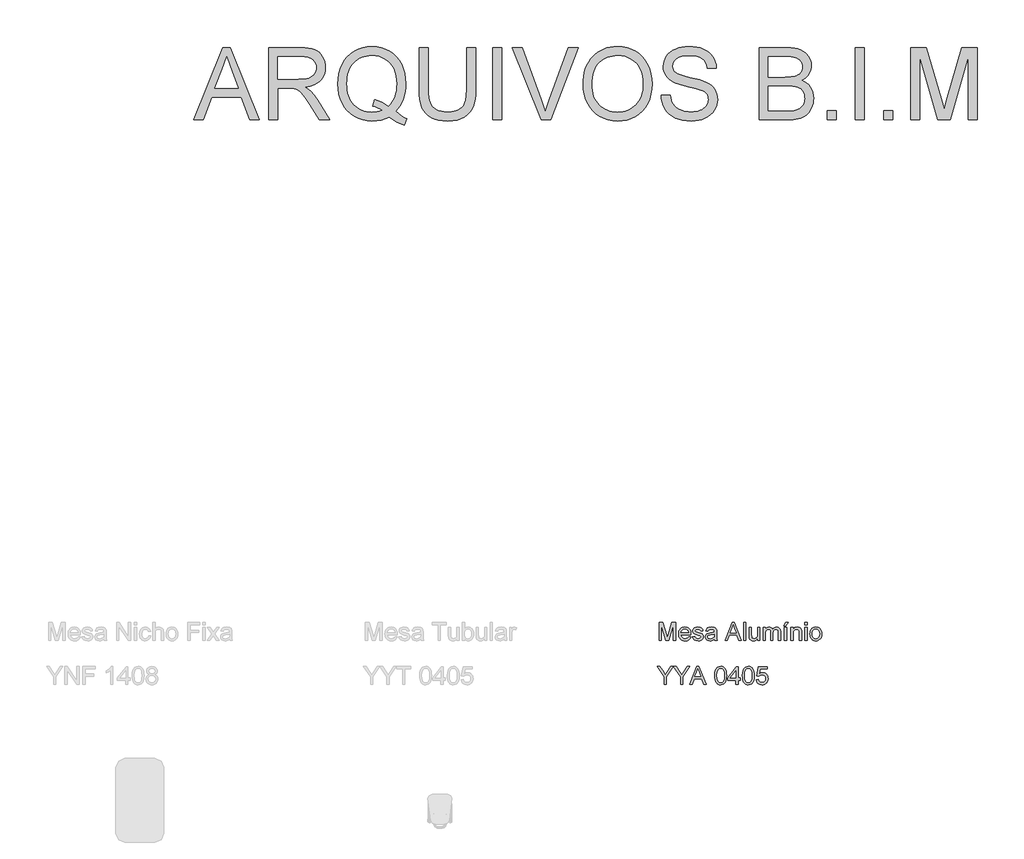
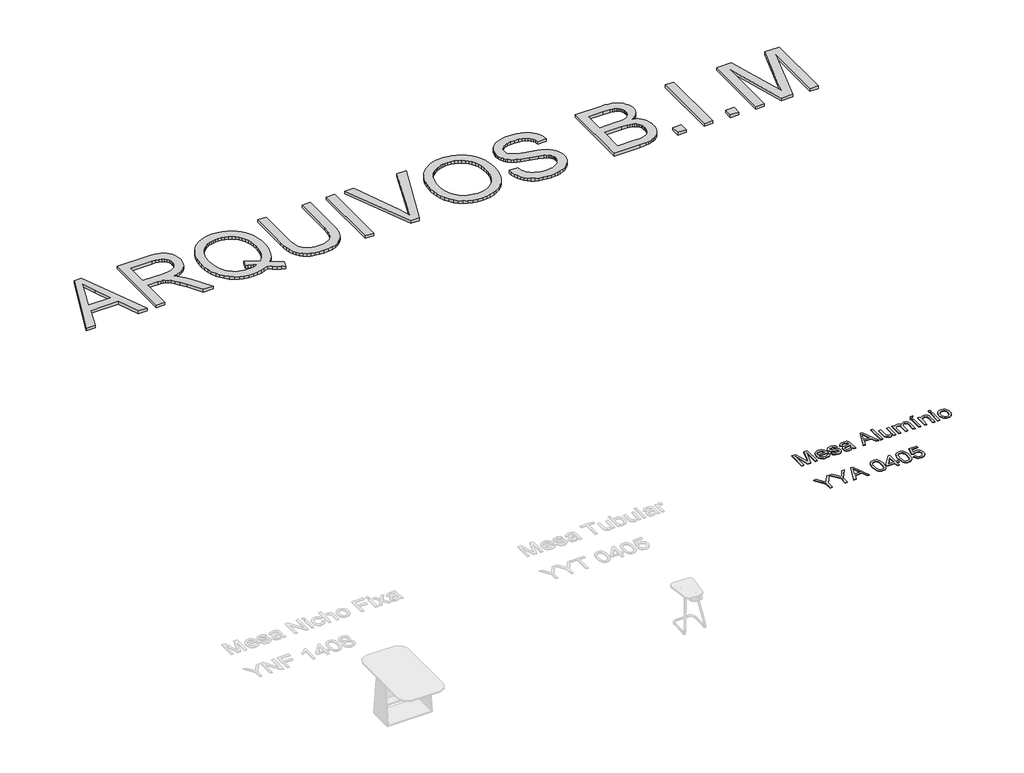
# One storey, part 25 of 26: 2 proxies.
"""IFC4 building model written with IfcOpenShell, lengths in millimetres."""

from ifc_helpers import new_model, si_unit, origin, origin_with_axes, place, context, project, spatial, polyline, outline, extrude, element, save

model = new_model("IFC4")

# Units and contexts
model_context = context("Model", 3, world=origin())
ifc_project = project(units=[si_unit("LENGTHUNIT", "METRE", prefix="MILLI")], contexts=[model_context])

# Site, building, storey
site = spatial("IfcSite", under=ifc_project)
building = spatial("IfcBuilding", under=site)
storey = spatial("IfcBuildingStorey", under=building, Name="Marelli - Linha YOUNG - Planta Baixa", Elevation=0.0)

# Proxies
placement = place(None, origin())
element("IfcBuildingElementProxy", 1, Name="1200mm Arial", ObjectType="1200mm Arial", at=placement, inside=storey, context=model_context, shape_type="SweptSolid", body=[
    extrude(outline(polyline([(1800.9329987, 21269.4336799), (2282.1226484, 22474.9094017), (2410.4398883, 22474.9094017), (2891.629538, 21269.4336799), (2732.4102105, 21269.4336799), (2594.3808859, 21646.144843), (2097.8873452, 21646.144843), (1960.1523263, 21269.4336799), (1800.9329987, 21269.4336799)]), holes=[polyline([(2153.2167973, 21796.8293082), (2539.3457395, 21796.8293082), (2430.7469745, 22093.1950435), (2346.2812684, 22324.2249365), (2271.2333414, 22119.093936), (2153.2167973, 21796.8293082)])]), origin_with_axes(), (0.0, 0.0, 1.0), 50.0),
    extrude(outline(polyline([(3052.6146991, 21269.4336799), (3052.6146991, 22474.9094017), (3572.0640763, 22474.9094017), (3646.6245597, 22472.8768537), (3711.6752935, 22466.7792096), (3767.2162777, 22456.6164695), (3813.2475124, 22442.3886334), (3852.4453389, 22423.0012522), (3887.486099, 22397.3598771), (3918.3697925, 22365.4645082), (3945.0964194, 22327.3151453), (3966.6635014, 22284.9627306), (3982.0685599, 22240.4582062), (3991.3115951, 22193.8015722), (3994.3926068, 22144.9928285), (3989.2882441, 22083.0782887), (3973.975156, 22026.2405204), (3948.4533426, 21974.4795237), (3912.7228039, 21927.7952985), (3890.9142993, 21906.7294558), (3866.3236872, 21887.6777669), (3808.7961402, 21855.616851), (3740.1401629, 21831.6125509), (3660.3557552, 21815.6648664), (3710.0198245, 21783.2176744), (3745.9986836, 21751.2119408), (3807.7292824, 21678.0034238), (3868.135506, 21596.1128916), (4069.1462282, 21269.4336799), (3894.0343985, 21269.4336799), (3737.1695158, 21519.2991311), (3674.4088474, 21614.6541442), (3623.8618612, 21684.6988761), (3581.7393728, 21732.9282057), (3544.2521975, 21762.8370119), (3508.7515849, 21780.384983), (3472.5887848, 21791.5318075), (3437.3456897, 21795.504933), (3385.1800228, 21796.8293082), (3203.2991644, 21796.8293082), (3203.2991644, 21269.4336799), (3052.6146991, 21269.4336799)]), holes=[polyline([(3203.2991644, 21947.5137734), (3540.5733775, 21947.5137734), (3637.4367069, 21952.8480624), (3677.7289824, 21959.5159235), (3712.5949985, 21968.8509292), (3742.8165044, 21981.1197937), (3769.1752493, 21996.5892316), (3791.6712333, 22015.2592429), (3810.3044564, 22037.1298275), (3824.9185687, 22061.1249306), (3835.3572203, 22086.1684974), (3841.6204112, 22112.2605279), (3843.7081416, 22139.4010221), (3839.725819, 22177.9366611), (3827.7788512, 22212.9038448), (3807.8672382, 22244.3025731), (3779.99098, 22272.132846), (3743.5062831, 22294.9231356), (3697.7693541, 22311.2019139), (3642.7801928, 22320.9691808), (3578.5387994, 22324.2249365), (3203.2991644, 22324.2249365), (3203.2991644, 21947.5137734)])]), origin_with_axes(), (0.0, 0.0, 1.0), 50.0),
    extrude(outline(polyline([(5163.6687403, 21413.9377276), (5213.3144155, 21373.8569843), (5261.0103162, 21339.5519882), (5306.7564423, 21311.0227395), (5350.5527938, 21288.2692381), (5309.9386215, 21177.9046395), (5247.7481702, 21203.4908323), (5185.6680836, 21235.51496), (5123.6983615, 21273.9770226), (5061.839004, 21318.8770201), (4993.8728054, 21289.0050021), (4922.4117278, 21267.6678464), (4847.4557713, 21254.8655529), (4769.0049358, 21250.5981218), (4690.0758538, 21255.5185435), (4614.8623798, 21270.2798085), (4543.3645141, 21294.8819169), (4475.5822565, 21329.3248687), (4413.4561845, 21372.6797619), (4358.9268758, 21424.0176943), (4311.9943303, 21483.338666), (4272.6585479, 21550.642677), (4241.5633223, 21624.1914849), (4219.3524468, 21702.2468473), (4206.0259216, 21784.808764), (4201.5837465, 21871.8772352), (4206.0167245, 21958.7617654), (4219.3156586, 22041.654776), (4241.4805488, 22120.5562669), (4272.5113951, 22195.4662382), (4311.7276158, 22264.030245), (4358.4486292, 22323.8938427), (4412.6744353, 22375.0570312), (4474.4050341, 22417.5198105), (4541.8378038, 22450.8683133), (4613.1701227, 22474.6886725), (4688.4019907, 22488.980888), (4767.5334078, 22493.7449599), (4847.3362096, 22488.8705234), (4923.1107036, 22474.2472141), (4994.8568897, 22449.875032), (5062.574768, 22415.7539769), (5124.3697461, 22372.8589363), (5178.3472319, 22322.1647973), (5224.5072252, 22263.6715601), (5262.8497262, 22197.3792246), (5292.9792616, 22124.9432597), (5314.5003583, 22048.0191345), (5327.4130163, 21966.606849), (5331.7172356, 21880.7064031), (5329.1052735, 21809.2821138), (5321.269387, 21741.5734325), (5308.2095762, 21677.5803595), (5289.925841, 21617.3028946), (5266.3629992, 21560.777826), (5237.4658685, 21508.041942), (5203.2344488, 21459.0952425), (5163.6687403, 21413.9377276)]), holes=[polyline([(4810.5020249, 21614.3598386), (4876.904725, 21592.7467714), (4937.200584, 21566.4616028), (4991.3896019, 21535.5043329), (5039.4717787, 21499.8749617), (5072.6501361, 21532.8739767), (5101.4047126, 21569.7725408), (5125.735508, 21610.5706541), (5145.6425225, 21655.2683165), (5161.125756, 21703.865528), (5172.1852084, 21756.3622887), (5178.8208799, 21812.7585986), (5181.0327704, 21873.0544576), (5177.9057735, 21941.6000704), (5168.5247826, 22005.6759169), (5152.8897978, 22065.2819971), (5131.0008191, 22120.4183112), (5103.0877727, 22170.358292), (5069.3805849, 22214.3753727), (5029.8792557, 22252.4695533), (4984.583785, 22284.6408338), (4934.9289127, 22310.1994354), (4882.3493785, 22328.4555794), (4826.8451825, 22339.4092659), (4768.4163246, 22343.0604947), (4724.4912144, 22341.2141869), (4682.4790906, 22335.6752636), (4642.3799531, 22326.4437248), (4604.193802, 22313.5195704), (4567.9206373, 22296.9028006), (4533.5604589, 22276.5934152), (4501.1132669, 22252.5914143), (4470.5790613, 22224.8967978), (4442.849956, 22193.537157), (4418.8180646, 22158.5400829), (4398.4833873, 22119.9055756), (4381.8459241, 22077.6336351), (4368.9056749, 22031.7242614), (4359.6626398, 21982.1774544), (4354.1168187, 21928.9932142), (4352.2682117, 21872.1715408), (4354.0961254, 21816.9501541), (4359.5798663, 21765.0351068), (4368.7194347, 21716.4263989), (4381.5148303, 21671.1240305), (4397.9660533, 21629.1280015), (4418.0731036, 21590.4383119), (4441.8359812, 21555.0549617), (4469.2546862, 21522.977951), (4499.5152795, 21494.4556001), (4531.8038224, 21469.7362293), (4566.1203147, 21448.8198386), (4602.4647566, 21431.706428), (4640.837148, 21418.3959976), (4681.2374888, 21408.8885473), (4723.6657792, 21403.1840771), (4768.122019, 21401.282587), (4810.5939954, 21403.2139675), (4851.7783847, 21409.0081089), (4891.6751871, 21418.6650113), (4930.2844025, 21432.1846746), (4892.2270101, 21453.9081064), (4853.1027599, 21472.2838121), (4812.911652, 21487.3117916), (4771.6536862, 21498.9920449), (4810.5020249, 21614.3598386)])]), origin_with_axes(), (0.0, 0.0, 1.0), 50.0),
    extrude(outline(polyline([(6348.8373759, 22474.9094017), (6499.5218411, 22474.9094017), (6499.5218411, 21779.465278), (6496.9650613, 21693.3533), (6489.2947217, 21616.6039188), (6476.5108223, 21549.2171343), (6458.6133633, 21491.1929466), (6434.0572401, 21440.3332608), (6401.2973484, 21394.4399819), (6360.3336883, 21353.5131099), (6311.1662596, 21317.5526449), (6253.7398802, 21288.260041), (6187.9993676, 21267.3367526), (6113.944722, 21254.7827795), (6031.5759433, 21250.5981218), (5951.2397126, 21254.2401535), (5878.5738215, 21265.1662488), (5813.57827, 21283.3764075), (5756.2530581, 21308.8706298), (5706.5889887, 21341.2718365), (5664.5768649, 21380.2029487), (5630.2166865, 21425.6639662), (5603.5084537, 21477.6548892), (5583.4864761, 21537.9599453), (5569.1850635, 21608.3633621), (5560.604216, 21688.8651397), (5557.7439335, 21779.465278), (5557.7439335, 22474.9094017), (5708.4283987, 22474.9094017), (5708.4283987, 21784.7627788), (5710.2862028, 21711.9129467), (5715.859615, 21649.3454164), (5725.1486354, 21597.0601878), (5738.1532639, 21555.057261), (5755.682841, 21520.3016095), (5778.546707, 21489.7582068), (5806.7448619, 21463.427053), (5840.2773058, 21441.3081481), (5878.5002451, 21423.7969651), (5920.7698863, 21411.2889773), (5967.0862295, 21403.7841846), (6017.4492747, 21401.282587), (6100.4986351, 21406.2305998), (6170.7089138, 21421.0746383), (6200.9993976, 21432.2076672), (6228.080111, 21445.8147025), (6251.951054, 21461.8957442), (6272.6122265, 21480.4507924), (6290.4774959, 21502.5237121), (6305.9607294, 21529.1583685), (6319.0619269, 21560.3547617), (6329.7810886, 21596.1128916), (6344.0733041, 21681.3143617), (6348.8373759, 21784.7627788), (6348.8373759, 22474.9094017)])), origin_with_axes(), (0.0, 0.0, 1.0), 50.0),
    extrude(outline(polyline([(6782.0552134, 21269.4336799), (6782.0552134, 22474.9094017), (6932.7396787, 22474.9094017), (6932.7396787, 21269.4336799), (6782.0552134, 21269.4336799)])), origin_with_axes(), (0.0, 0.0, 1.0), 50.0),
    extrude(outline(polyline([(7590.2183804, 21269.4336799), (7110.5002587, 22474.9094017), (7271.7797254, 22474.9094017), (7592.8671308, 21606.4135875), (7628.5516843, 21505.2460388), (7657.9086676, 21410.7003661), (7687.7806856, 21508.6305532), (7722.0672875, 21606.4135875), (8044.0376097, 22474.9094017), (8205.3170764, 22474.9094017), (7745.9060408, 21269.4336799), (7590.2183804, 21269.4336799)])), origin_with_axes(), (0.0, 0.0, 1.0), 50.0),
    extrude(outline(polyline([(8288.8998657, 21856.2790386), (8291.4106603, 21929.0047106), (8298.9430441, 21997.6744835), (8311.4970172, 22062.2883574), (8329.0725796, 22122.8463323), (8351.6697311, 22179.3484083), (8379.2884719, 22231.7945852), (8411.9288019, 22280.1848632), (8449.5907212, 22324.5192421), (8491.2211675, 22364.1815197), (8535.7670785, 22398.5554936), (8583.2284544, 22427.6411639), (8633.6052952, 22451.4385304), (8686.8976007, 22469.9475933), (8743.105371, 22483.1683525), (8802.2286062, 22491.100808), (8864.2673061, 22493.7449599), (8945.366892, 22488.7785529), (9022.3829877, 22473.8793321), (9095.3155932, 22449.0472975), (9164.1647086, 22414.2824489), (9226.9989534, 22370.6332502), (9281.8869471, 22319.148165), (9328.8286896, 22259.8271932), (9367.8241811, 22192.670335), (9398.4687513, 22119.2043006), (9420.35773, 22040.9558002), (9433.4911173, 21957.9248339), (9437.868913, 21870.1114017), (9433.261191, 21781.1391411), (9419.4380251, 21696.9861347), (9396.3994151, 21617.6523825), (9364.1453612, 21543.1378843), (9323.4392184, 21475.410809), (9275.0443419, 21416.4393252), (9218.9607318, 21366.2234329), (9155.1883879, 21324.763132), (9086.238105, 21292.31594), (9014.6206776, 21269.1393743), (8940.3361057, 21255.2334349), (8863.3843893, 21250.5981218), (8780.8684578, 21255.7208786), (8702.8406867, 21271.0891489), (8629.3010758, 21296.7029328), (8560.2496253, 21332.5622303), (8497.4889569, 21377.2782868), (8442.8216925, 21429.4623478), (8396.2478319, 21489.1144134), (8357.7673752, 21556.2344834), (8327.6378398, 21628.1278223), (8306.1167431, 21702.0996945), (8293.204085, 21778.1500999), (8288.8998657, 21856.2790386)]), holes=[polyline([(8439.5843309, 21854.8075107), (8441.4674269, 21803.4557827), (8447.1167148, 21754.9091549), (8456.5321946, 21709.1676273), (8469.7138663, 21666.2311999), (8486.66173, 21626.0998728), (8507.3757856, 21588.7736458), (8531.8560331, 21554.2525191), (8560.1024725, 21522.5364926), (8591.1908004, 21494.1176085), (8624.1967131, 21469.4879089), (8659.1202108, 21448.6473939), (8695.9612933, 21431.5960634), (8734.7199608, 21418.3339175), (8775.3962131, 21408.8609561), (8817.9900504, 21403.1771793), (8862.5014726, 21401.282587), (8907.8268336, 21403.1955734), (8951.096654, 21408.9345325), (8992.3109338, 21418.4994644), (9031.4696729, 21431.890369), (9068.5728714, 21449.1072464), (9103.6205292, 21470.1500965), (9136.6126464, 21495.0189194), (9167.549223, 21523.713715), (9195.5887288, 21555.9263822), (9219.8896338, 21591.3488198), (9240.4519381, 21629.9810278), (9257.2756416, 21671.8230063), (9270.3607443, 21716.8747551), (9279.7072462, 21765.1362743), (9285.3151474, 21816.607564), (9287.1844478, 21871.288624), (9283.9838744, 21940.248104), (9274.3821544, 22004.6826355), (9258.3792876, 22064.5922184), (9235.9752741, 22119.9768528), (9207.4184342, 22170.1099717), (9172.9570883, 22214.2650081), (9132.5912364, 22252.4419622), (9086.3208784, 22284.6408338), (9035.5807542, 22310.1994354), (8981.8056036, 22328.4555794), (8924.9954265, 22339.4092659), (8865.1502229, 22343.0604947), (8822.3517513, 22341.3015589), (8781.0707929, 22336.0247515), (8741.3073478, 22327.2300726), (8703.0614158, 22314.917522), (8666.3329972, 22299.0870999), (8631.1220917, 22279.7388062), (8597.4286995, 22256.872641), (8565.2528205, 22230.4886041), (8535.7992682, 22199.993486), (8510.2728563, 22164.7940768), (8488.6735846, 22124.8903767), (8471.0014533, 22080.2823855), (8457.2564622, 22030.9701033), (8447.4386115, 21976.9535301), (8441.5479011, 21918.2326659), (8439.5843309, 21854.8075107)])]), origin_with_axes(), (0.0, 0.0, 1.0), 50.0),
    extrude(outline(polyline([(9588.5533782, 21683.8159593), (9739.2378435, 21683.8159593), (9746.1356309, 21639.9552284), (9756.5282972, 21600.1963818), (9770.4158426, 21564.5394194), (9787.7982668, 21532.9843413), (9809.5584868, 21504.8965509), (9836.5794194, 21479.641452), (9868.8610645, 21457.2190444), (9906.4034221, 21437.6293281), (9947.8269347, 21421.7276289), (9991.752045, 21410.3692723), (10038.1787527, 21403.5542583), (10087.1070581, 21401.282587), (10130.3883748, 21403.0024353), (10171.0577294, 21408.1619803), (10209.1151218, 21416.761222), (10244.560552, 21428.8001602), (10276.5203004, 21443.8465338), (10304.1206471, 21461.4680814), (10327.3615921, 21481.6648029), (10346.2431355, 21504.4366985), (10360.8572478, 21528.7996836), (10371.2958994, 21553.769674), (10377.5590903, 21579.3466697), (10379.6468207, 21605.5306707), (10378.0833222, 21631.6043071), (10373.3928267, 21655.9672923), (10365.5753344, 21678.6196261), (10354.630845, 21699.5613087), (10338.8487074, 21718.9027046), (10316.5182703, 21736.7541784), (10287.6395337, 21753.1157301), (10252.2124975, 21767.9873598), (10172.639622, 21791.6421721), (10032.8076756, 21825.5241038), (9888.7818745, 21863.5998903), (9836.2207344, 21881.9480049), (9796.6274347, 21899.8362669), (9756.3903415, 21923.8405671), (9721.6162959, 21950.5304058), (9692.3052979, 21979.9057831), (9668.4573476, 22011.966699), (9649.9804744, 22046.3820596), (9636.7827078, 22082.8207713), (9628.8640479, 22121.2828339), (9626.2244945, 22161.7682474), (9629.4894473, 22206.6406538), (9639.2843054, 22250.0231381), (9655.6090689, 22291.9157003), (9678.4637379, 22332.3183404), (9707.5907948, 22369.5847865), (9742.7327224, 22402.0687667), (9783.8895206, 22429.7702809), (9831.0611895, 22452.6893292), (9882.6566393, 22470.6511676), (9937.0847805, 22483.4810522), (9994.345613, 22491.178983), (10054.4391369, 22493.7449599), (10119.9957085, 22491.0594213), (10181.5791545, 22483.0028056), (10239.1894749, 22469.5751128), (10292.8266698, 22450.7763428), (10341.4974578, 22426.7720427), (10384.2085574, 22397.7277591), (10420.9599687, 22363.6434923), (10451.7516917, 22324.5192421), (10476.3446031, 22281.4954428), (10494.4995796, 22235.7125285), (10506.2166211, 22187.1704992), (10511.4957277, 22135.869355), (10360.8112625, 22135.869355), (10350.7312958, 22183.9515317), (10333.1465365, 22225.7797146), (10308.0569844, 22261.3539035), (10275.4626396, 22290.6740985), (10234.7564969, 22313.5931468), (10185.3315508, 22329.9638956), (10127.1878015, 22339.7863449), (10060.3252489, 22343.0604947), (9991.3289807, 22339.8231331), (9932.3758909, 22330.1110484), (9883.4659797, 22313.9242406), (9844.5992469, 22291.2627097), (9814.9847463, 22264.021048), (9793.8315315, 22234.0938477), (9781.1396027, 22201.4811088), (9776.9089598, 22166.1828314), (9779.907198, 22135.8141727), (9788.9019128, 22108.2782053), (9803.8931041, 22083.5749294), (9824.8807719, 22061.7043447), (9857.9165751, 22040.9925884), (9909.9350892, 22020.0601029), (9980.9363143, 21998.9068882), (10070.9202503, 21977.5329442), (10237.0557593, 21937.1395012), (10295.5122084, 21918.8741601), (10337.5611204, 21901.896406), (10383.757902, 21876.1630605), (10423.4615663, 21847.2291416), (10456.6721134, 21815.0946493), (10483.3895433, 21779.7595836), (10503.9265557, 21741.4078856), (10518.5958502, 21700.2234963), (10527.397427, 21656.2064156), (10530.3312859, 21609.3566435), (10526.9559686, 21562.2217628), (10516.8300167, 21516.4664397), (10499.9534301, 21472.090674), (10476.326209, 21429.0944658), (10446.3622205, 21389.1424812), (10410.4753319, 21353.899386), (10368.6655431, 21323.3651804), (10320.9328542, 21297.5398644), (10268.6660198, 21277.002852), (10213.2537942, 21262.3335574), (10154.6961777, 21253.5319807), (10092.99317, 21250.5981218), (10015.912695, 21253.7619069), (9945.3621254, 21263.2532624), (9881.3414611, 21279.0721882), (9823.8507024, 21301.2186843), (9772.5403611, 21329.7295389), (9727.0609494, 21364.6415403), (9687.4124674, 21405.9546883), (9653.594915, 21453.6689831), (9626.3532532, 21506.2393202), (9606.4324432, 21562.1205953), (9593.8324849, 21621.3128083), (9588.5533782, 21683.8159593)])), origin_with_axes(), (0.0, 0.0, 1.0), 50.0),
    extrude(outline(polyline([(11227.2469376, 21269.4336799), (11227.2469376, 22474.9094017), (11687.2465843, 22474.9094017), (11753.9711812, 22472.6929127), (11813.7612025, 22466.0434456), (11866.6166481, 22454.9610005), (11912.5375182, 22439.4455774), (11952.6918379, 22419.3316293), (11988.2476328, 22394.4536094), (12019.2049027, 22364.8115176), (12045.5636476, 22330.405354), (12066.6156948, 22293.1756961), (12081.6528714, 22255.0631214), (12090.6751773, 22216.0676299), (12093.6826126, 22176.1892216), (12091.1534239, 22139.3550369), (12083.5658577, 22103.606104), (12070.9199141, 22068.942423), (12053.2155931, 22035.3639939), (12030.3977124, 22003.9192804), (12002.4110896, 21975.6567461), (11969.2557248, 21950.5763911), (11930.9316179, 21928.6782153), (11976.4110296, 21909.2908341), (12016.317029, 21884.0909175), (12050.6496162, 21853.0784653), (12079.4087912, 21816.2534776), (12102.1347014, 21774.7379944), (12118.3674945, 21729.6540559), (12128.1071703, 21681.001662), (12131.3537289, 21628.7808128), (12129.1372399, 21585.9869397), (12122.4877728, 21544.7197769), (12111.4053277, 21504.9793244), (12095.8899046, 21466.7655821), (12077.1003317, 21431.4673047), (12056.1954373, 21400.4732466), (12033.1752214, 21373.7834079), (12008.0396841, 21351.3977885), (11980.2002141, 21332.3966834), (11949.0682003, 21315.8603877), (11914.6436426, 21301.7889014), (11876.926541, 21290.1822245), (11835.3282844, 21281.1047362), (11789.2602616, 21274.6208161), (11683.7149172, 21269.4336799), (11227.2469376, 21269.4336799)]), holes=[polyline([(11377.9314028, 21985.1848897), (11653.1071352, 21985.1848897), (11749.3450651, 21988.4222513), (11813.7979907, 21998.134336), (11843.8999349, 22007.9108), (11870.0471477, 22020.4647731), (11892.2396291, 22035.7962552), (11910.477379, 22053.9052464), (11924.7052152, 22074.662988), (11934.8679553, 22097.9407213), (11940.9655993, 22123.7384462), (11942.9981474, 22152.0561628), (11941.1035551, 22179.1690658), (11935.4197783, 22204.5897117), (11925.9468169, 22228.3181004), (11912.684671, 22250.3542319), (11895.8908579, 22269.8795688), (11875.8228951, 22286.0755736), (11852.4807825, 22298.9422464), (11825.8645201, 22308.4795871), (11792.5711995, 22315.3681775), (11749.1979123, 22320.2885992), (11632.2114378, 22324.2249365), (11377.9314028, 22324.2249365), (11377.9314028, 21985.1848897)]), polyline([(11377.9314028, 21420.1181452), (11686.9522787, 21420.1181452), (11754.6425658, 21421.5896731), (11798.7884053, 21426.0042571), (11850.6965548, 21439.0640679), (11893.4076544, 21458.819331), (11928.1357148, 21487.1094565), (11956.0947464, 21525.7738542), (11966.8460977, 21548.5641438), (11974.5256344, 21573.0834788), (11979.1333563, 21599.3318591), (11980.6692637, 21627.3092848), (11978.8666419, 21659.9036296), (11973.4587766, 21690.2906824), (11964.4456677, 21718.4704432), (11951.8273153, 21744.4429121), (11935.1714579, 21767.463128), (11914.0458343, 21786.7861297), (11888.4504445, 21802.4119175), (11858.3852885, 21814.3404912), (11822.525991, 21823.160462), (11779.5481769, 21829.4604412), (11672.2369989, 21834.5004245), (11377.9314028, 21834.5004245), (11377.9314028, 21420.1181452)])]), origin_with_axes(), (0.0, 0.0, 1.0), 50.0),
    extrude(outline(polyline([(12357.3804267, 21269.4336799), (12357.3804267, 21420.1181452), (12508.064892, 21420.1181452), (12508.064892, 21269.4336799), (12357.3804267, 21269.4336799)])), origin_with_axes(), (0.0, 0.0, 1.0), 50.0),
    extrude(outline(polyline([(12828.2693806, 21269.4336799), (12828.2693806, 22474.9094017), (12978.9538458, 22474.9094017), (12978.9538458, 21269.4336799), (12828.2693806, 21269.4336799)])), origin_with_axes(), (0.0, 0.0, 1.0), 50.0),
    extrude(outline(polyline([(13299.1583344, 21269.4336799), (13299.1583344, 21420.1181452), (13449.8427996, 21420.1181452), (13449.8427996, 21269.4336799), (13299.1583344, 21269.4336799)])), origin_with_axes(), (0.0, 0.0, 1.0), 50.0),
    extrude(outline(polyline([(13751.2117301, 21269.4336799), (13751.2117301, 22474.9094017), (14010.4949603, 22474.9094017), (14257.1230498, 21625.2491457), (14306.8606956, 21447.7828712), (14360.7186197, 21639.9644255), (14603.2264309, 22474.9094017), (14862.5096611, 22474.9094017), (14862.5096611, 21269.4336799), (14711.8251959, 21269.4336799), (14711.8251959, 22324.2249365), (14408.9847374, 21269.4336799), (14204.7366537, 21269.4336799), (13901.8961953, 22324.2249365), (13901.8961953, 21269.4336799), (13751.2117301, 21269.4336799)])), origin_with_axes(), (0.0, 0.0, 1.0), 50.0),
])
element("IfcBuildingElementProxy", 2, Name="300mm Arial", ObjectType="300mm Arial", at=placement, inside=storey, context=model_context, shape_type="SweptSolid", body=[
    extrude(outline(polyline([(9555.1708067, 12585.3581335), (9555.1708067, 12886.7270639), (9619.9916142, 12886.7270639), (9681.6486366, 12674.3119999), (9694.083048, 12629.9454313), (9707.5475291, 12677.9908199), (9768.1744819, 12886.7270639), (9832.9952894, 12886.7270639), (9832.9952894, 12585.3581335), (9795.3241731, 12585.3581335), (9795.3241731, 12849.0559476), (9719.6140585, 12585.3581335), (9668.5520376, 12585.3581335), (9592.841923, 12849.0559476), (9592.841923, 12585.3581335), (9555.1708067, 12585.3581335)])), origin_with_axes(), (0.0, 0.0, 1.0), 10.0),
    extrude(outline(polyline([(10049.1627498, 12651.282587), (10086.0981021, 12646.5736975), (10072.7899709, 12618.7434245), (10051.5539827, 12597.9396977), (10022.8683842, 12584.9718574), (9987.2114218, 12580.6492439), (9963.8371195, 12582.5139458), (9943.0104001, 12588.1080514), (9924.7312634, 12597.4315607), (9908.9997096, 12610.4844737), (9896.3491675, 12626.903507), (9887.313066, 12646.3253771), (9881.8914051, 12668.750084), (9880.0841848, 12694.1776276), (9881.9097992, 12720.4673947), (9887.3866424, 12743.6393619), (9896.5147144, 12763.6935292), (9909.2940152, 12780.6298965), (9924.9841823, 12794.0851805), (9942.8448532, 12803.6960976), (9962.8760278, 12809.4626479), (9985.0777062, 12811.3848313), (10006.564314, 12809.4672464), (10025.9953811, 12803.7144917), (10043.3709076, 12794.1265672), (10058.6908935, 12780.7034729), (10071.196582, 12763.8038938), (10080.1292167, 12743.7865147), (10085.4887975, 12720.6513357), (10087.2753245, 12694.3983568), (10087.0545953, 12684.2448138), (9917.7553011, 12684.2448138), (9924.2760095, 12656.0466588), (9939.4235506, 12635.3165084), (9961.2849382, 12622.5693973), (9987.9471858, 12618.3203602), (10007.9967545, 12620.2885289), (10024.8825381, 12626.1930349), (10038.6045365, 12636.4017603), (10049.1627498, 12651.282587)]), holes=[polyline([(9917.7553011, 12721.9159301), (10049.6042082, 12721.9159301), (10044.5090425, 12741.818346), (10034.5210464, 12756.0553792), (10012.5584913, 12769.2991311), (9984.9305534, 12773.713715), (9959.5374987, 12770.1912449), (9938.5406338, 12759.6238346), (9923.9449157, 12743.1519182), (9917.7553011, 12721.9159301)])]), origin_with_axes(), (0.0, 0.0, 1.0), 10.0),
    extrude(outline(polyline([(10110.8197722, 12651.282587), (10148.4908885, 12655.9914765), (10154.4321827, 12639.8782452), (10165.928495, 12628.0324449), (10183.0534019, 12620.7483814), (10205.8804797, 12618.3203602), (10228.431646, 12620.5460463), (10244.28736, 12627.2231045), (10253.6683509, 12636.898401), (10256.7953479, 12648.1188018), (10253.6499568, 12657.7205219), (10244.2137836, 12665.0413736), (10205.4390213, 12675.7835279), (10148.7116177, 12694.2144158), (10134.3550228, 12703.4758451), (10123.9531594, 12715.7355126), (10117.6347861, 12730.2116691), (10115.5286617, 12746.1225654), (10117.2209189, 12760.7182835), (10122.2976904, 12774.1919616), (10130.2991238, 12786.0101707), (10140.7653666, 12795.6394819), (10164.7144845, 12806.7863064), (10197.1248882, 12811.3848313), (10221.6442232, 12809.5362243), (10242.9629848, 12803.9904032), (10260.1062858, 12795.289994), (10272.0992389, 12783.9776227), (10280.04549, 12769.2163576), (10285.0486851, 12750.1692673), (10247.3775688, 12745.4603778), (10242.622694, 12757.3153751), (10233.214112, 12766.2457105), (10219.0598522, 12771.8467139), (10200.0679442, 12773.713715), (10178.4364829, 12771.9294873), (10164.0155087, 12766.5768043), (10155.9037107, 12758.8512824), (10153.199778, 12749.9485381), (10157.6879384, 12738.9856547), (10171.7410306, 12730.6715216), (10204.1882225, 12722.6516941), (10259.4808864, 12704.9197819), (10274.0858016, 12696.4401019), (10285.1590497, 12684.833425), (10292.1396105, 12670.0629629), (10294.4664642, 12652.0919274), (10291.7349403, 12633.5138866), (10283.5403689, 12616.0394919), (10270.1954495, 12601.0391035), (10252.0128819, 12589.883082), (10230.0503268, 12582.9577034), (10205.3654449, 12580.6492439), (10167.3816289, 12585.1006161), (10139.6617206, 12598.4547325), (10121.1572562, 12620.5644404), (10110.8197722, 12651.282587)])), origin_with_axes(), (0.0, 0.0, 1.0), 10.0),
    extrude(outline(polyline([(10478.1131562, 12613.6114707), (10460.1145295, 12598.178821), (10441.582474, 12588.0804602), (10422.0939253, 12582.507048), (10401.2258192, 12580.6492439), (10369.7443174, 12585.1190102), (10346.5217665, 12598.5283089), (10332.2019598, 12618.8905773), (10327.4286909, 12644.2192527), (10329.2313127, 12659.8358434), (10334.639178, 12674.0176943), (10342.9809023, 12686.1578001), (10353.5851008, 12695.6491556), (10379.9622398, 12708.0099907), (10412.5565846, 12713.6753734), (10451.0738295, 12719.6350617), (10477.892427, 12726.6248196), (10478.1131562, 12735.0125291), (10475.5195881, 12751.8247363), (10467.7388839, 12762.8244079), (10450.3380655, 12770.9913882), (10426.094642, 12773.713715), (10403.6538403, 12771.9018962), (10387.9820673, 12766.4664397), (10377.2950954, 12756.4140642), (10369.8086968, 12740.7514882), (10332.1375805, 12745.4603778), (10338.6766829, 12766.0617695), (10348.4347529, 12782.2485773), (10362.3222982, 12794.6278064), (10381.2498268, 12803.8064622), (10404.3988014, 12809.490239), (10430.9506844, 12811.3848313), (10456.4173155, 12809.7109682), (10476.60484, 12804.689379), (10491.8259575, 12797.138601), (10502.3933678, 12787.8771718), (10509.4015198, 12776.4268447), (10513.9448625, 12762.3093731), (10515.7842725, 12729.3471464), (10515.7842725, 12682.4789802), (10517.6972588, 12617.0327733), (10525.2020515, 12585.3581335), (10487.5309352, 12585.3581335), (10478.1131562, 12613.6114707)]), holes=[polyline([(10478.1131562, 12688.9537033), (10417.3390506, 12677.4022087), (10384.9286468, 12671.2953675), (10370.2501552, 12661.3625537), (10365.0998072, 12646.8680031), (10367.9049074, 12635.6659963), (10376.3202081, 12626.4873405), (10390.1617682, 12620.3621053), (10409.2456467, 12618.3203602), (10429.4791564, 12620.5736375), (10447.3582214, 12627.3334691), (10461.852772, 12637.2938741), (10471.9327386, 12649.1488714), (10476.4025049, 12661.3625537), (10477.892427, 12678.2851254), (10478.1131562, 12688.9537033)])]), origin_with_axes(), (0.0, 0.0, 1.0), 10.0),
    extrude(outline(polyline([(10654.917243, 12585.3581335), (10775.2146555, 12886.7270639), (10807.2939654, 12886.7270639), (10927.5913779, 12585.3581335), (10887.786546, 12585.3581335), (10853.2792148, 12679.5359242), (10729.1558297, 12679.5359242), (10694.7220749, 12585.3581335), (10654.917243, 12585.3581335)]), holes=[polyline([(10742.9881927, 12717.2070405), (10839.5204282, 12717.2070405), (10812.370737, 12791.2984744), (10791.2543104, 12849.0559476), (10772.4923287, 12797.7731975), (10742.9881927, 12717.2070405)])]), origin_with_axes(), (0.0, 0.0, 1.0), 10.0),
    extrude(outline(polyline([(10963.1287786, 12585.3581335), (10963.1287786, 12886.7270639), (11000.7998949, 12886.7270639), (11000.7998949, 12585.3581335), (10963.1287786, 12585.3581335)])), origin_with_axes(), (0.0, 0.0, 1.0), 10.0),
    extrude(outline(polyline([(11198.5732555, 12585.3581335), (11198.5732555, 12623.3971318), (11184.9432276, 12604.6949308), (11169.0691195, 12591.3362159), (11150.9509312, 12583.3209869), (11130.5886628, 12580.6492439), (11112.2405483, 12582.5254421), (11095.1616267, 12588.1540366), (11080.832623, 12596.6153225), (11070.7342622, 12606.9895948), (11059.5138613, 12634.7278972), (11057.3065694, 12669.7502632), (11057.3065694, 12806.6759418), (11094.9776857, 12806.6759418), (11094.9776857, 12687.4821753), (11097.258554, 12649.075295), (11102.7491928, 12636.2638046), (11112.1577748, 12626.5241287), (11124.8589007, 12620.3713024), (11140.2271711, 12618.3203602), (11156.4783582, 12620.4172876), (11171.6810817, 12626.7080697), (11184.2166606, 12636.6132924), (11192.4664144, 12649.5535416), (11197.0465452, 12667.2762567), (11198.5732555, 12691.5288773), (11198.5732555, 12806.6759418), (11236.2443718, 12806.6759418), (11236.2443718, 12585.3581335), (11198.5732555, 12585.3581335)])), origin_with_axes(), (0.0, 0.0, 1.0), 10.0),
    extrude(outline(polyline([(11288.0421567, 12585.3581335), (11288.0421567, 12806.6759418), (11325.713273, 12806.6759418), (11325.713273, 12770.2556242), (11337.0440385, 12786.985058), (11351.6121655, 12800.0908541), (11368.9210134, 12808.561337), (11388.4739414, 12811.3848313), (11409.424821, 12808.5061547), (11426.2186341, 12799.8701249), (11438.7634102, 12786.0469589), (11446.9671787, 12767.6068739), (11460.6983741, 12786.7597303), (11476.3609501, 12800.4403419), (11493.9549065, 12808.648709), (11513.4802434, 12811.3848313), (11541.79796, 12806.8322916), (11562.7396425, 12793.1746725), (11575.6798917, 12770.0440921), (11579.9933081, 12737.0726683), (11579.9933081, 12585.3581335), (11542.3221918, 12585.3581335), (11542.3221918, 12720.8858605), (11538.8273128, 12752.3397711), (11533.9160882, 12761.0125891), (11526.1721722, 12767.8276031), (11516.2117672, 12772.242187), (11504.6510755, 12773.713715), (11484.2428218, 12769.9429245), (11467.6053586, 12758.6305532), (11456.5413076, 12739.0040488), (11452.8532906, 12710.290859), (11452.8532906, 12585.3581335), (11415.1821743, 12585.3581335), (11415.1821743, 12725.0797152), (11413.0024734, 12746.3800828), (11406.463371, 12761.5736092), (11394.9578616, 12770.6786885), (11377.87894, 12773.713715), (11363.3659952, 12771.690364), (11349.9934847, 12765.6203111), (11338.9570249, 12755.650709), (11331.4522322, 12741.9287106), (11327.1480128, 12722.8908174), (11325.713273, 12696.9735308), (11325.713273, 12585.3581335), (11288.0421567, 12585.3581335)])), origin_with_axes(), (0.0, 0.0, 1.0), 10.0),
    extrude(outline(polyline([(11645.9177616, 12585.3581335), (11645.9177616, 12806.6759418), (11683.5888779, 12806.6759418), (11683.5888779, 12585.3581335), (11645.9177616, 12585.3581335)])), origin_with_axes(), (0.0, 0.0, 1.0), 10.0),
    extrude(outline(polyline([(11636.4999826, 12830.2203895), (11664.7533198, 12886.7270639), (11711.8422152, 12886.7270639), (11664.7533198, 12830.2203895), (11636.4999826, 12830.2203895)])), origin_with_axes(), (0.0, 0.0, 1.0), 10.0),
    extrude(outline(polyline([(11754.222221, 12585.3581335), (11754.222221, 12806.6759418), (11791.8933373, 12806.6759418), (11791.8933373, 12775.7738542), (11804.9807393, 12791.3536567), (11820.6984976, 12802.482087), (11839.0466121, 12809.1591452), (11860.0250828, 12811.3848313), (11878.5939265, 12809.5914066), (11895.5992718, 12804.2111324), (11909.7811227, 12795.9153934), (11919.8794835, 12785.3755742), (11931.1734607, 12757.67406), (11933.1600235, 12721.2537425), (11933.1600235, 12585.3581335), (11895.4889072, 12585.3581335), (11895.4889072, 12716.176971), (11891.1478996, 12749.5070797), (11885.1422261, 12759.4306965), (11875.8072204, 12767.1286273), (11863.8418585, 12772.0674431), (11849.9451162, 12773.713715), (11827.8813935, 12770.0165009), (11809.0734265, 12758.9248588), (11801.5571375, 12749.8703632), (11796.1883596, 12737.4957326), (11791.8933373, 12702.7860663), (11791.8933373, 12585.3581335), (11754.222221, 12585.3581335)])), origin_with_axes(), (0.0, 0.0, 1.0), 10.0),
    extrude(outline(polyline([(11984.9578084, 12849.0559476), (11984.9578084, 12886.7270639), (12022.6289247, 12886.7270639), (12022.6289247, 12849.0559476), (11984.9578084, 12849.0559476)])), origin_with_axes(), (0.0, 0.0, 1.0), 10.0),
    extrude(outline(polyline([(11984.9578084, 12585.3581335), (11984.9578084, 12806.6759418), (12022.6289247, 12806.6759418), (12022.6289247, 12585.3581335), (11984.9578084, 12585.3581335)])), origin_with_axes(), (0.0, 0.0, 1.0), 10.0),
    extrude(outline(polyline([(12069.7178201, 12696.0170376), (12071.7549666, 12724.6796436), (12077.8664063, 12749.378321), (12088.052139, 12770.11307), (12102.3121649, 12786.8838904), (12116.6687597, 12797.6030521), (12132.5152767, 12805.2595961), (12149.8517157, 12809.8535225), (12168.6780768, 12811.3848313), (12189.4611103, 12809.5201294), (12208.2529824, 12803.9260239), (12225.0536933, 12794.6025145), (12239.8632429, 12781.5496015), (12251.9504657, 12765.2087431), (12260.5841962, 12746.0213978), (12265.7644346, 12723.9875656), (12267.4911807, 12699.1072464), (12264.4377601, 12661.049854), (12255.2774985, 12632.0791469), (12240.2771101, 12610.3833062), (12219.7033095, 12594.1505132), (12195.266748, 12584.0245612), (12168.6780768, 12580.6492439), (12147.5915407, 12582.507048), (12128.6249246, 12588.0804602), (12111.7782284, 12597.3694806), (12097.0514523, 12610.3741091), (12085.0929882, 12626.8736166), (12076.5512281, 12646.6472739), (12071.4261721, 12669.6950809), (12069.7178201, 12696.0170376)]), holes=[polyline([(12107.3889364, 12696.090614), (12111.748338, 12661.9971501), (12124.826543, 12637.7077414), (12144.5082297, 12623.1672055), (12168.6780768, 12618.3203602), (12192.7375593, 12623.1947967), (12212.3824578, 12637.818106), (12225.4606627, 12662.4294115), (12229.8200644, 12697.2678364), (12225.4330716, 12730.3680189), (12212.2720932, 12754.3263339), (12192.5996035, 12768.8668697), (12168.6780768, 12773.713715), (12144.5082297, 12768.8852638), (12124.826543, 12754.3999103), (12111.748338, 12730.1656838), (12107.3889364, 12696.090614)])]), origin_with_axes(), (0.0, 0.0, 1.0), 10.0),
    extrude(outline(polyline([(10066.3060508, 11853.5092264), (10186.6034632, 12154.8781568), (10218.6827732, 12154.8781568), (10338.9801856, 11853.5092264), (10299.1753537, 11853.5092264), (10264.6680226, 11947.6870172), (10140.5446374, 11947.6870172), (10106.1108826, 11853.5092264), (10066.3060508, 11853.5092264)]), holes=[polyline([(10154.3770004, 11985.3581335), (10250.9092359, 11985.3581335), (10223.7595447, 12059.4495673), (10202.6431182, 12117.2070405), (10183.8811364, 12065.9242904), (10154.3770004, 11985.3581335)])]), origin_with_axes(), (0.0, 0.0, 1.0), 10.0),
    extrude(outline(polyline([(9913.0464116, 11853.5092264), (9913.0464116, 11981.1642787), (9795.3241731, 12154.8781568), (9839.7643181, 12154.8781568), (9902.5985629, 12062.0983177), (9934.7514493, 12014.7886931), (9966.9779121, 12065.482832), (10023.9996213, 12154.8781568), (10068.4397663, 12154.8781568), (9950.7175279, 11981.1642787), (9950.7175279, 11853.5092264), (9913.0464116, 11853.5092264)])), origin_with_axes(), (0.0, 0.0, 1.0), 10.0),
    extrude(outline(polyline([(9677.6019346, 11981.1642787), (9677.6019346, 11853.5092264), (9639.9308183, 11853.5092264), (9639.9308183, 11981.1642787), (9522.2085799, 12154.8781568), (9566.6487249, 12154.8781568), (9629.4829697, 12062.0983177), (9661.6358561, 12014.7886931), (9693.8623188, 12065.482832), (9750.8840281, 12154.8781568), (9795.3241731, 12154.8781568), (9677.6019346, 11981.1642787)])), origin_with_axes(), (0.0, 0.0, 1.0), 10.0),
    extrude(outline(polyline([(10482.8220457, 12001.7656705), (10485.5903577, 12050.0041971), (10493.8952937, 12088.4754567), (10507.6540804, 12117.7680606), (10526.7839441, 12138.4706199), (10551.4228407, 12150.7762726), (10581.708726, 12154.8781568), (10604.9220799, 12152.4501357), (10625.7074126, 12145.1660722), (10643.0898369, 12133.3110749), (10656.0944654, 12117.1702523), (10665.9169147, 12096.8815603), (10673.7528012, 12072.5829545), (10678.884755, 12041.7268522), (10680.5954063, 12001.7656705), (10677.8546854, 11953.8030553), (10669.6325228, 11915.4237662), (10655.9565097, 11886.1035712), (10636.8542371, 11865.3182384), (10612.1601581, 11852.9298123), (10581.708726, 11848.8003369), (10560.9601815, 11850.5937616), (10542.5660817, 11855.9740358), (10526.5264267, 11864.9411594), (10512.8412165, 11877.4951325), (10499.7078293, 11900.1888531), (10490.3268384, 11928.4651829), (10484.6982439, 11962.324122), (10482.8220457, 12001.7656705)]), holes=[polyline([(10520.493162, 12001.8392469), (10524.9077459, 11942.5826545), (10530.4259759, 11922.3146558), (10538.1514978, 11908.2868555), (10557.8699727, 11891.9253037), (10581.708726, 11886.4714532), (10605.5474793, 11891.9436978), (10625.2659542, 11908.3604319), (10632.9914761, 11922.4112248), (10638.5097061, 11942.674625), (10642.92429, 12001.8392469), (10638.6568588, 12059.762267), (10633.3225699, 12079.9635871), (10625.8545654, 12094.3247804), (10606.1728787, 12111.4864755), (10581.2672676, 12117.2070405), (10557.6860317, 12112.1670572), (10538.740109, 12097.0471072), (10530.7570697, 12081.4121224), (10525.0548987, 12060.3324841), (10520.493162, 12001.8392469)])]), origin_with_axes(), (0.0, 0.0, 1.0), 10.0),
    extrude(outline(polyline([(10835.9887611, 11853.5092264), (10835.9887611, 11924.1425695), (10699.4309645, 11924.1425695), (10699.4309645, 11961.8136858), (10845.4065401, 12150.1692673), (10873.6598774, 12150.1692673), (10873.6598774, 11961.8136858), (10911.3309937, 11961.8136858), (10911.3309937, 11924.1425695), (10873.6598774, 11924.1425695), (10873.6598774, 11853.5092264), (10835.9887611, 11853.5092264)]), holes=[polyline([(10835.9887611, 11961.8136858), (10835.9887611, 12078.2115491), (10745.7840958, 11961.8136858), (10835.9887611, 11961.8136858)])]), origin_with_axes(), (0.0, 0.0, 1.0), 10.0),
    extrude(outline(polyline([(10944.2932204, 12001.7656705), (10947.0615325, 12050.0041971), (10955.3664685, 12088.4754567), (10969.1252551, 12117.7680606), (10988.2551189, 12138.4706199), (11012.8940155, 12150.7762726), (11043.1799007, 12154.8781568), (11066.3932546, 12152.4501357), (11087.1785874, 12145.1660722), (11104.5610116, 12133.3110749), (11117.5656402, 12117.1702523), (11127.3880894, 12096.8815603), (11135.2239759, 12072.5829545), (11140.3559298, 12041.7268522), (11142.066581, 12001.7656705), (11139.3258602, 11953.8030553), (11131.1036976, 11915.4237662), (11117.4276844, 11886.1035712), (11098.3254118, 11865.3182384), (11073.6313329, 11852.9298123), (11043.1799007, 11848.8003369), (11022.4313562, 11850.5937616), (11004.0372565, 11855.9740358), (10987.9976015, 11864.9411594), (10974.3123912, 11877.4951325), (10961.179004, 11900.1888531), (10951.7980131, 11928.4651829), (10946.1694186, 11962.324122), (10944.2932204, 12001.7656705)]), holes=[polyline([(10981.9643367, 12001.8392469), (10986.3789207, 11942.5826545), (10991.8971506, 11922.3146558), (10999.6226725, 11908.2868555), (11019.3411475, 11891.9253037), (11043.1799007, 11886.4714532), (11067.018654, 11891.9436978), (11086.737129, 11908.3604319), (11094.4626509, 11922.4112248), (11099.9808808, 11942.674625), (11104.3954647, 12001.8392469), (11100.1280336, 12059.762267), (11094.7937447, 12079.9635871), (11087.3257402, 12094.3247804), (11067.6440534, 12111.4864755), (11042.7384424, 12117.2070405), (11019.1572065, 12112.1670572), (11000.2112837, 12097.0471072), (10992.2282444, 12081.4121224), (10986.5260735, 12060.3324841), (10981.9643367, 12001.8392469)])]), origin_with_axes(), (0.0, 0.0, 1.0), 10.0),
    extrude(outline(polyline([(11175.0288078, 11933.5603485), (11212.6999241, 11938.2692381), (11219.6161056, 11915.6536924), (11231.6826351, 11899.4576876), (11248.8443301, 11889.7180118), (11271.0460086, 11886.4714532), (11298.048547, 11890.9872047), (11318.2820567, 11904.5344591), (11330.9188033, 11925.5497181), (11335.1310521, 11952.4694831), (11331.1855177, 11977.8165526), (11319.3489145, 11997.2039337), (11299.529272, 12009.5095865), (11271.6346198, 12013.6114707), (11253.3600816, 12011.9743958), (11238.5620284, 12007.0631712), (11217.4088137, 11990.067023), (11179.7376974, 11994.7759125), (11212.6999241, 12150.1692673), (11358.6754998, 12150.1692673), (11358.6754998, 12112.498151), (11243.1605533, 12112.498151), (11227.0473219, 12029.5039729), (11253.9578899, 12045.8379335), (11282.1560448, 12051.282587), (11300.5018601, 12049.5949284), (11317.3531547, 12044.5319524), (11332.7099287, 12036.0936591), (11346.5721822, 12024.2800486), (11358.0478012, 12009.8130891), (11366.2446719, 11993.4147492), (11371.1627943, 11975.0850288), (11372.8021684, 11954.8239279), (11366.8976624, 11917.1528116), (11359.5170299, 11900.3589985), (11349.1841443, 11884.9263488), (11333.5307654, 11869.1212186), (11315.2654244, 11857.8318398), (11294.3881212, 11851.0582126), (11270.8988558, 11848.8003369), (11233.8991241, 11854.6036753), (11218.2204533, 11861.8578484), (11204.4225792, 11872.0136908), (11192.9423617, 11884.5653646), (11184.2166606, 11899.0070321), (11175.0288078, 11933.5603485)])), origin_with_axes(), (0.0, 0.0, 1.0), 10.0),
])

save(model, "model.ifc")
